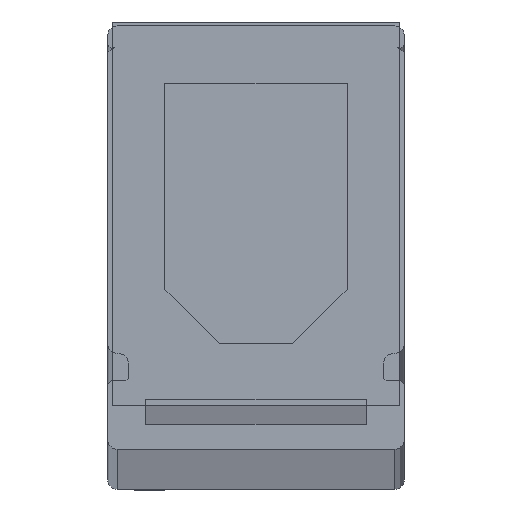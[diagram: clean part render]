
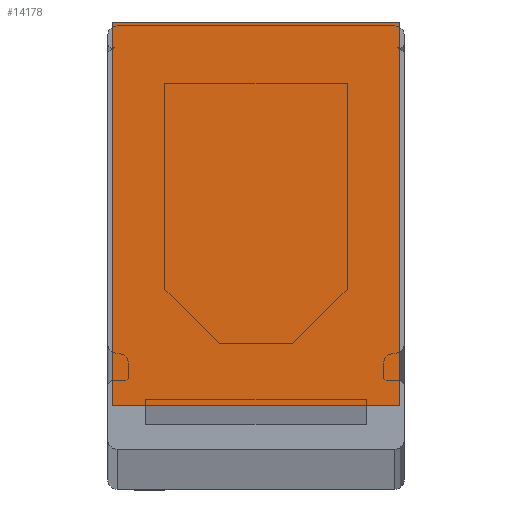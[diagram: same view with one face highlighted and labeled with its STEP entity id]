
A CAD part, top view. The second image highlights one B-rep face of the part: STEP entity #14178.
In plain terms, the highlighted planar face has unit normal (0, 0, 1).
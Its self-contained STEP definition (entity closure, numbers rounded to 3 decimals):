
#12 = VECTOR ( 'NONE', #3762, 1000. ) ;
#320 = ORIENTED_EDGE ( 'NONE', *, *, #8763, .T. ) ;
#393 = DIRECTION ( 'NONE',  ( 1., 0., 0. ) ) ;
#1150 = CARTESIAN_POINT ( 'NONE',  ( 7.5, 20., 0. ) ) ;
#1204 = DIRECTION ( 'NONE',  ( -1., 0., 0. ) ) ;
#1498 = FACE_OUTER_BOUND ( 'NONE', #11245, .T. ) ;
#3702 = LINE ( 'NONE', #15235, #12470 ) ;
#3762 = DIRECTION ( 'NONE',  ( 0., -1., 0. ) ) ;
#4505 = EDGE_CURVE ( 'NONE', #8102, #11481, #9352, .T. ) ;
#4986 = VECTOR ( 'NONE', #1204, 1000. ) ;
#5374 = DIRECTION ( 'NONE',  ( 0., 1., 0. ) ) ;
#5527 = VERTEX_POINT ( 'NONE', #15928 ) ;
#6370 = LINE ( 'NONE', #11906, #18478 ) ;
#7470 = CARTESIAN_POINT ( 'NONE',  ( -7.5, 20., 0. ) ) ;
#7899 = VERTEX_POINT ( 'NONE', #20340 ) ;
#8064 = CARTESIAN_POINT ( 'NONE',  ( -7.5, 0., 0. ) ) ;
#8102 = VERTEX_POINT ( 'NONE', #1150 ) ;
#8763 = EDGE_CURVE ( 'NONE', #5527, #8102, #3702, .T. ) ;
#9352 = LINE ( 'NONE', #17408, #4986 ) ;
#9692 = DIRECTION ( 'NONE',  ( 0., 0., 1. ) ) ;
#10381 = EDGE_CURVE ( 'NONE', #11481, #7899, #17016, .T. ) ;
#11245 = EDGE_LOOP ( 'NONE', ( #20978, #15328, #320, #17138 ) ) ;
#11481 = VERTEX_POINT ( 'NONE', #7470 ) ;
#11643 = AXIS2_PLACEMENT_3D ( 'NONE', #8064, #9692, #21255 ) ;
#11906 = CARTESIAN_POINT ( 'NONE',  ( -7.5, 0., 0. ) ) ;
#12470 = VECTOR ( 'NONE', #5374, 1000. ) ;
#14178 = ADVANCED_FACE ( 'NONE', ( #1498 ), #17925, .T. ) ;
#14459 = EDGE_CURVE ( 'NONE', #7899, #5527, #6370, .T. ) ;
#15235 = CARTESIAN_POINT ( 'NONE',  ( 7.5, 20., 0. ) ) ;
#15328 = ORIENTED_EDGE ( 'NONE', *, *, #14459, .T. ) ;
#15928 = CARTESIAN_POINT ( 'NONE',  ( 7.5, 0., 0. ) ) ;
#17016 = LINE ( 'NONE', #18595, #12 ) ;
#17138 = ORIENTED_EDGE ( 'NONE', *, *, #4505, .T. ) ;
#17408 = CARTESIAN_POINT ( 'NONE',  ( -7.5, 20., 0. ) ) ;
#17925 = PLANE ( 'NONE',  #11643 ) ;
#18478 = VECTOR ( 'NONE', #393, 1000. ) ;
#18595 = CARTESIAN_POINT ( 'NONE',  ( -7.5, 20., 0. ) ) ;
#20340 = CARTESIAN_POINT ( 'NONE',  ( -7.5, 0., 0. ) ) ;
#20978 = ORIENTED_EDGE ( 'NONE', *, *, #10381, .T. ) ;
#21255 = DIRECTION ( 'NONE',  ( 1., 0., 0. ) ) ;
